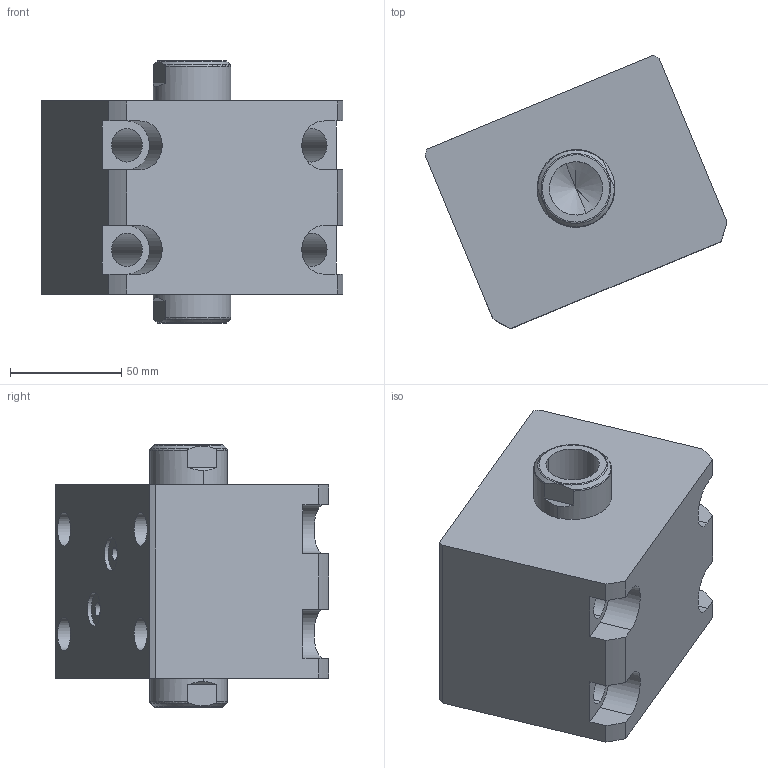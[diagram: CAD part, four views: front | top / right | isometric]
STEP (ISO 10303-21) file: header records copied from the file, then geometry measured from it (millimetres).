
FILE_DESCRIPTION (( 'STEP AP214' ), '1' );
FILE_NAME ('chtb-lwm63x5n_asm.STEP', '2018-05-22T02:05:13', ( 'Windows' ), ( 'Microsoft' ), 'SwSTEP 2.0', 'SolidWorks 2015', '' );
FILE_SCHEMA (( 'AUTOMOTIVE_DESIGN' ));
Length unit declared in the file: millimetre
Products named in the file (4): CHTB-SW63X5NHSG; CHTB-LWM63X5NBT; CHTB-63QG; chtb-lwm63x5n_asm
Assembly tree (3 placements, depth 2):
  chtb-lwm63x5n_asm
    CHTB-63QG
    CHTB-LWM63X5NBT
    CHTB-SW63X5NHSG
Bounding box: 135.77 x 123.03 x 118 mm (x, y, z)
Volume: 799042.8 mm3; surface area: 127814.9 mm2
Topology: 3 solids, 3 shells, 173 faces, 510 edges, 345 vertices
Faces by surface type: cylinder 98, plane 39, bspline 12, cone 12, torus 12
Entity records: 18228 total; most frequent: CARTESIAN_POINT 13770, ORIENTED_EDGE 1004, DIRECTION 763, EDGE_CURVE 502, VERTEX_POINT 345, AXIS2_PLACEMENT_3D 294, EDGE_LOOP 199, LINE 175
